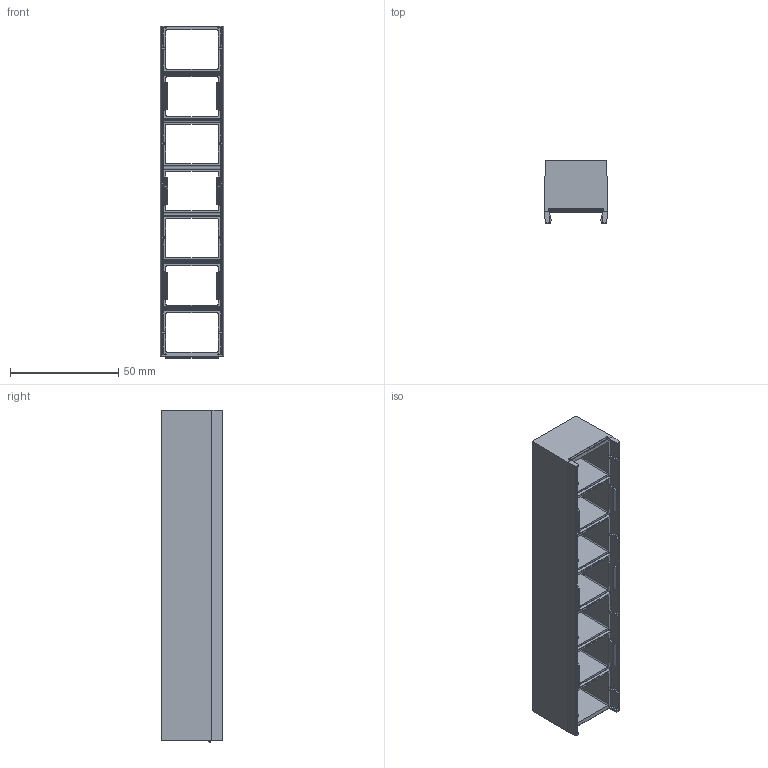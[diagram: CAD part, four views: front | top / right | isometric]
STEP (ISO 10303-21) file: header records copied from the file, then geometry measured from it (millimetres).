
FILE_DESCRIPTION (( 'STEP AP214' ), '1' );
FILE_NAME ('LVR-000009-00 REV D.STEP', '2022-09-16T15:03:26', ( '' ), ( '' ), 'SwSTEP 2.0', 'SolidWorks 2020', '' );
FILE_SCHEMA (( 'AUTOMOTIVE_DESIGN' ));
Length unit declared in the file: inch
Products named in the file (1): LVR-000009-00 REV D
Bounding box: 29.21 x 28.5 x 153.29 mm (x, y, z)
Volume: 22809.4 mm3; surface area: 32842.3 mm2
Topology: 1 solids, 1 shells, 805 faces, 1934 edges, 1105 vertices
Faces by surface type: cylinder 362, bspline 201, plane 182, sphere 60
Entity records: 27250 total; most frequent: CARTESIAN_POINT 9117, ORIENTED_EDGE 3820, DIRECTION 3092, EDGE_CURVE 1910, AXIS2_PLACEMENT_3D 1122, VERTEX_POINT 1105, VECTOR 848, LINE 848
